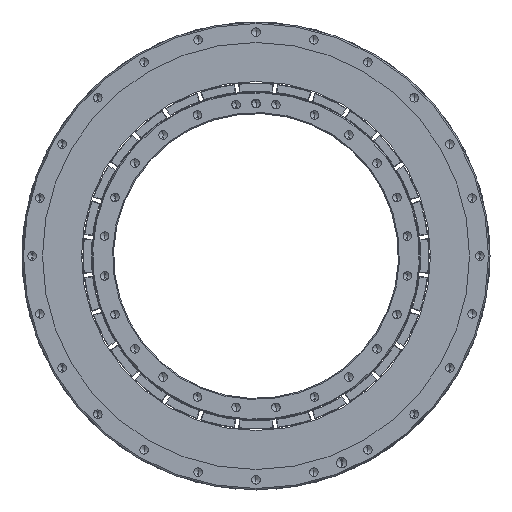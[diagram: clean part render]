
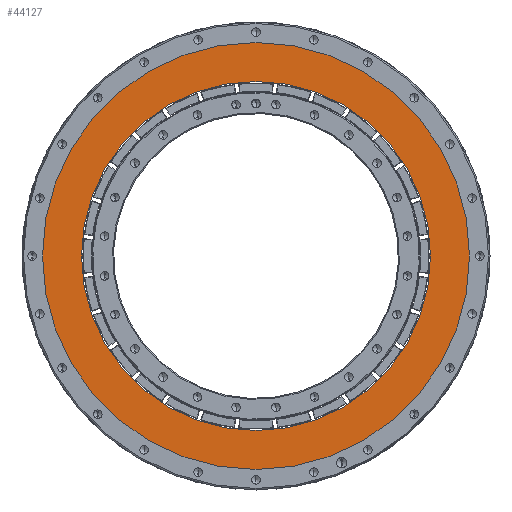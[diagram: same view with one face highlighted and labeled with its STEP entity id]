
A CAD part, front view. The second image highlights one B-rep face of the part: STEP entity #44127.
In plain terms, the highlighted planar face has unit normal (0, -1, 0).
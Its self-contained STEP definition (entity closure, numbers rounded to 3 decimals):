
#90 = DIRECTION ( 'NONE',  ( 0., 1., 0. ) ) ;
#871 = CIRCLE ( 'NONE', #53733, 85.765 ) ;
#874 = EDGE_LOOP ( 'NONE', ( #33632, #6873 ) ) ;
#956 = DIRECTION ( 'NONE',  ( 0., 0., 1. ) ) ;
#3063 = AXIS2_PLACEMENT_3D ( 'NONE', #6011, #50415, #45949 ) ;
#3117 = EDGE_CURVE ( 'NONE', #34573, #33913, #28512, .T. ) ;
#4696 = ORIENTED_EDGE ( 'NONE', *, *, #12898, .T. ) ;
#5374 = AXIS2_PLACEMENT_3D ( 'NONE', #47158, #6648, #38328 ) ;
#6011 = CARTESIAN_POINT ( 'NONE',  ( 0., -69., 0. ) ) ;
#6648 = DIRECTION ( 'NONE',  ( 0., 1., 0. ) ) ;
#6873 = ORIENTED_EDGE ( 'NONE', *, *, #3117, .F. ) ;
#7040 = VERTEX_POINT ( 'NONE', #41071 ) ;
#8390 = AXIS2_PLACEMENT_3D ( 'NONE', #8880, #26884, #44956 ) ;
#8880 = CARTESIAN_POINT ( 'NONE',  ( 0., -69., 0. ) ) ;
#9049 = AXIS2_PLACEMENT_3D ( 'NONE', #35932, #90, #956 ) ;
#10808 = CARTESIAN_POINT ( 'NONE',  ( 0., -69., 0. ) ) ;
#12898 = EDGE_CURVE ( 'NONE', #7040, #44304, #871, .T. ) ;
#13611 = CARTESIAN_POINT ( 'NONE',  ( 0., -69., 85.765 ) ) ;
#14085 = CARTESIAN_POINT ( 'NONE',  ( 0., -69., 104.935 ) ) ;
#22432 = DIRECTION ( 'NONE',  ( 0., 1., 0. ) ) ;
#22461 = PLANE ( 'NONE',  #8390 ) ;
#23520 = EDGE_CURVE ( 'NONE', #33913, #34573, #55715, .T. ) ;
#26590 = FACE_BOUND ( 'NONE', #44009, .T. ) ;
#26884 = DIRECTION ( 'NONE',  ( 0., 1., 0. ) ) ;
#28512 = CIRCLE ( 'NONE', #3063, 104.935 ) ;
#29792 = CIRCLE ( 'NONE', #9049, 85.765 ) ;
#31017 = ORIENTED_EDGE ( 'NONE', *, *, #36994, .T. ) ;
#32750 = DIRECTION ( 'NONE',  ( 0., 0., 1. ) ) ;
#33632 = ORIENTED_EDGE ( 'NONE', *, *, #23520, .F. ) ;
#33913 = VERTEX_POINT ( 'NONE', #41201 ) ;
#34573 = VERTEX_POINT ( 'NONE', #14085 ) ;
#35932 = CARTESIAN_POINT ( 'NONE',  ( 0., -69., 0. ) ) ;
#36994 = EDGE_CURVE ( 'NONE', #44304, #7040, #29792, .T. ) ;
#38328 = DIRECTION ( 'NONE',  ( 0., 0., 1. ) ) ;
#41071 = CARTESIAN_POINT ( 'NONE',  ( 0., -69., -85.765 ) ) ;
#41201 = CARTESIAN_POINT ( 'NONE',  ( 0., -69., -104.935 ) ) ;
#44009 = EDGE_LOOP ( 'NONE', ( #4696, #31017 ) ) ;
#44127 = ADVANCED_FACE ( 'NONE', ( #53553, #26590 ), #22461, .F. ) ;
#44304 = VERTEX_POINT ( 'NONE', #13611 ) ;
#44956 = DIRECTION ( 'NONE',  ( 0., 0., 1. ) ) ;
#45949 = DIRECTION ( 'NONE',  ( 0., 0., 1. ) ) ;
#47158 = CARTESIAN_POINT ( 'NONE',  ( 0., -69., 0. ) ) ;
#50415 = DIRECTION ( 'NONE',  ( 0., 1., 0. ) ) ;
#53553 = FACE_OUTER_BOUND ( 'NONE', #874, .T. ) ;
#53733 = AXIS2_PLACEMENT_3D ( 'NONE', #10808, #22432, #32750 ) ;
#55715 = CIRCLE ( 'NONE', #5374, 104.935 ) ;
